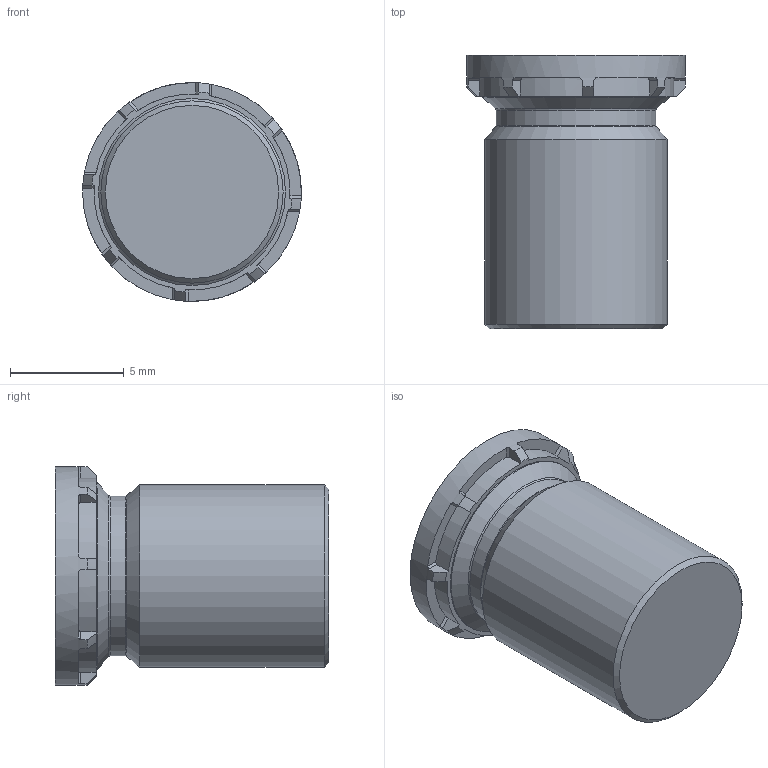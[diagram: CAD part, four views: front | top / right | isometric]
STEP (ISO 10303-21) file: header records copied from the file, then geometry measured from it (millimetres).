
FILE_DESCRIPTION(/* description */ (''),/* implementation_level */ '2;1');
FILE_NAME(/* name */ 'C:\Users\keval.kumar\Desktop\Fastit\Clinch Screw- FH Range\M8\Clinch Screw-FH Range_M8x12.stp',/* time_stamp */ '2024-03-12T12:17:40+06:00',/* author */ ('keval.kumar'),/* organization */ (''),/* preprocessor_version */ 'ST-DEVELOPER v18.1',/* originating_system */ 'Autodesk Inventor 2022',/* authorisation */ '');
FILE_SCHEMA (('AUTOMOTIVE_DESIGN { 1 0 10303 214 3 1 1 }'));
Length unit declared in the file: millimetre
Products named in the file (1): Clinch Screw-FH Range_M8x12
Bounding box: 9.6 x 12 x 9.6 mm (x, y, z)
Volume: 617.7 mm3; surface area: 457.9 mm2
Topology: 1 solids, 1 shells, 68 faces, 193 edges, 128 vertices
Faces by surface type: plane 43, cylinder 12, cone 11, torus 2
Full cylindrical faces by diameter (mm): 7 x1, 8 x1, 8.2 x1, 9.6 x1
Entity records: 2278 total; most frequent: CARTESIAN_POINT 422, DIRECTION 405, ORIENTED_EDGE 386, EDGE_CURVE 193, AXIS2_PLACEMENT_3D 159, VERTEX_POINT 128, LINE 87, VECTOR 87
